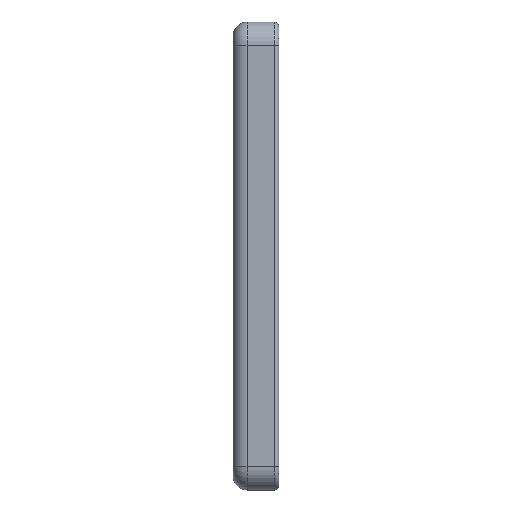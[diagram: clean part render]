
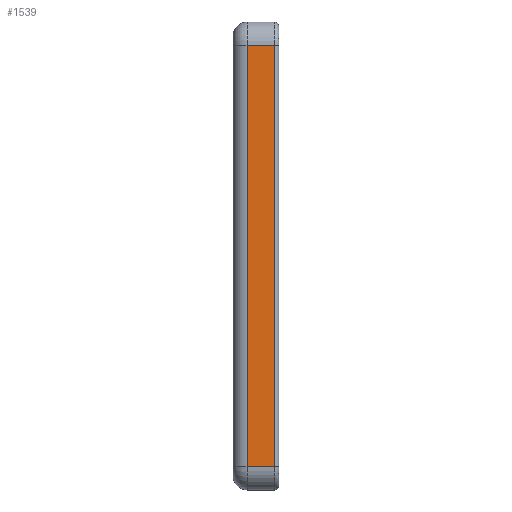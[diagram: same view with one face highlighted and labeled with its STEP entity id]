
A CAD part, left-side view. The second image highlights one B-rep face of the part: STEP entity #1539.
In plain terms, the highlighted planar face has unit normal (-1, 0, 0).
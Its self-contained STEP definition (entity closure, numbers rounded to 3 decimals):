
#159 = CARTESIAN_POINT ( 'NONE',  ( -50., 6.8, 45. ) ) ;
#164 = CARTESIAN_POINT ( 'NONE',  ( -50., 1., 45. ) ) ;
#165 = CARTESIAN_POINT ( 'NONE',  ( -50., 1., -45. ) ) ;
#166 = CARTESIAN_POINT ( 'NONE',  ( -50., 6.8, -45. ) ) ;
#175 = CARTESIAN_POINT ( 'NONE',  ( -50., 1., -50. ) ) ;
#177 = DIRECTION ( 'NONE',  ( 0., 0., 1. ) ) ;
#237 = VERTEX_POINT ( 'NONE', #159 ) ;
#242 = VERTEX_POINT ( 'NONE', #164 ) ;
#243 = VERTEX_POINT ( 'NONE', #165 ) ;
#244 = VERTEX_POINT ( 'NONE', #166 ) ;
#283 = ORIENTED_EDGE ( 'NONE', *, *, #1009, .T. ) ;
#288 = ORIENTED_EDGE ( 'NONE', *, *, #1344, .T. ) ;
#289 = ORIENTED_EDGE ( 'NONE', *, *, #1025, .T. ) ;
#325 = ORIENTED_EDGE ( 'NONE', *, *, #882, .T. ) ;
#395 = CARTESIAN_POINT ( 'NONE',  ( -50., 9.8, -45. ) ) ;
#399 = DIRECTION ( 'NONE',  ( 0., -1., 0. ) ) ;
#434 = CARTESIAN_POINT ( 'NONE',  ( -50., 6.8, -45. ) ) ;
#443 = DIRECTION ( 'NONE',  ( 0., 0., -1. ) ) ;
#530 = EDGE_LOOP ( 'NONE', ( #283, #325, #288, #289 ) ) ;
#674 = LINE ( 'NONE', #395, #691 ) ;
#681 = LINE ( 'NONE', #175, #682 ) ;
#682 = VECTOR ( 'NONE', #177, 1000. ) ;
#691 = VECTOR ( 'NONE', #399, 1000. ) ;
#747 = CARTESIAN_POINT ( 'NONE',  ( -50., 9.8, -50. ) ) ;
#748 = PLANE ( 'NONE',  #844 ) ;
#751 = DIRECTION ( 'NONE',  ( 1., 0., 0. ) ) ;
#752 = DIRECTION ( 'NONE',  ( 0., 0., -1. ) ) ;
#844 = AXIS2_PLACEMENT_3D ( 'NONE', #747, #751, #752 ) ;
#882 = EDGE_CURVE ( 'NONE', #243, #242, #681, .T. ) ;
#917 = VECTOR ( 'NONE', #443, 1000. ) ;
#923 = LINE ( 'NONE', #434, #917 ) ;
#935 = LINE ( 'NONE', #1561, #1006 ) ;
#1006 = VECTOR ( 'NONE', #1568, 1000. ) ;
#1009 = EDGE_CURVE ( 'NONE', #244, #243, #674, .T. ) ;
#1025 = EDGE_CURVE ( 'NONE', #237, #244, #923, .T. ) ;
#1299 = FACE_OUTER_BOUND ( 'NONE', #530, .T. ) ;
#1344 = EDGE_CURVE ( 'NONE', #242, #237, #935, .T. ) ;
#1539 = ADVANCED_FACE ( 'NONE', ( #1299 ), #748, .F. ) ;
#1561 = CARTESIAN_POINT ( 'NONE',  ( -50., 9.8, 45. ) ) ;
#1568 = DIRECTION ( 'NONE',  ( 0., 1., 0. ) ) ;
